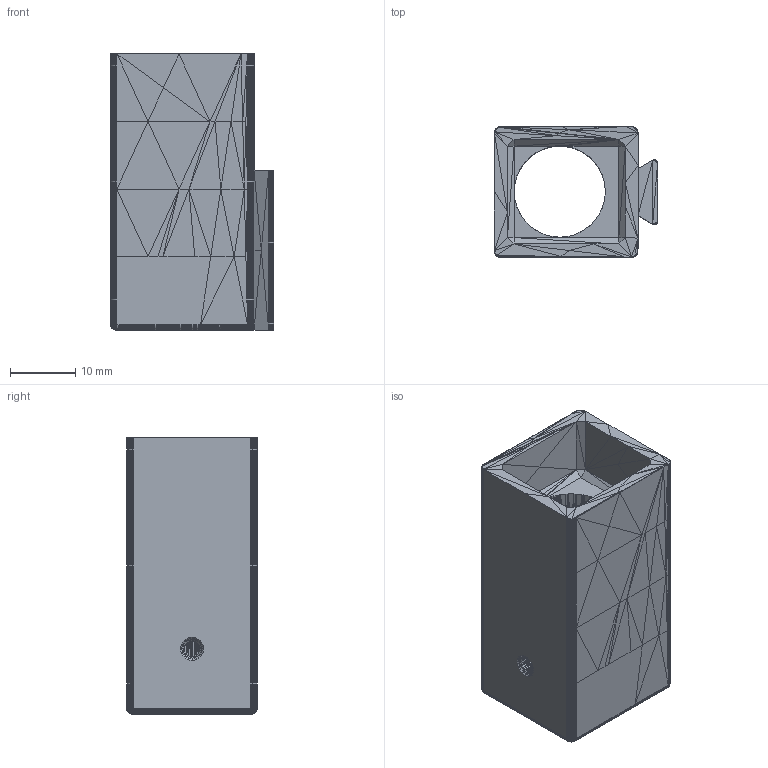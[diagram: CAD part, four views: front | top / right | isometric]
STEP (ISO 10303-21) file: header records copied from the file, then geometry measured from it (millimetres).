
FILE_DESCRIPTION(('Open CASCADE Model'),'2;1');
FILE_NAME('Open CASCADE Shape Model','2026-08-09T08:59:04',('Author'),( 'Open CASCADE'),'Open CASCADE STEP processor 7.9','Open CASCADE 7.9' ,'Unknown');
FILE_SCHEMA(('AUTOMOTIVE_DESIGN { 1 0 10303 214 1 1 1 1 }'));
Products named in the file (1): Open CASCADE STEP translator 7.9 1
Bounding box: 24.99 x 20 x 42.3 mm (x, y, z)
Volume: 11415.1 mm3; surface area: 6344.5 mm2
Topology: 1 solids, 1 shells, 12319 faces, 18716 edges, 6289 vertices
Faces by surface type: plane 12319
Entity records: 467161 total; most frequent: CARTESIAN_POINT 93017, DIRECTION 62515, LINE 37875, VECTOR 37875, ORIENTED_EDGE 37428, PCURVE 37428, DEFINITIONAL_REPRESENTATION 37428, EDGE_CURVE 18714
